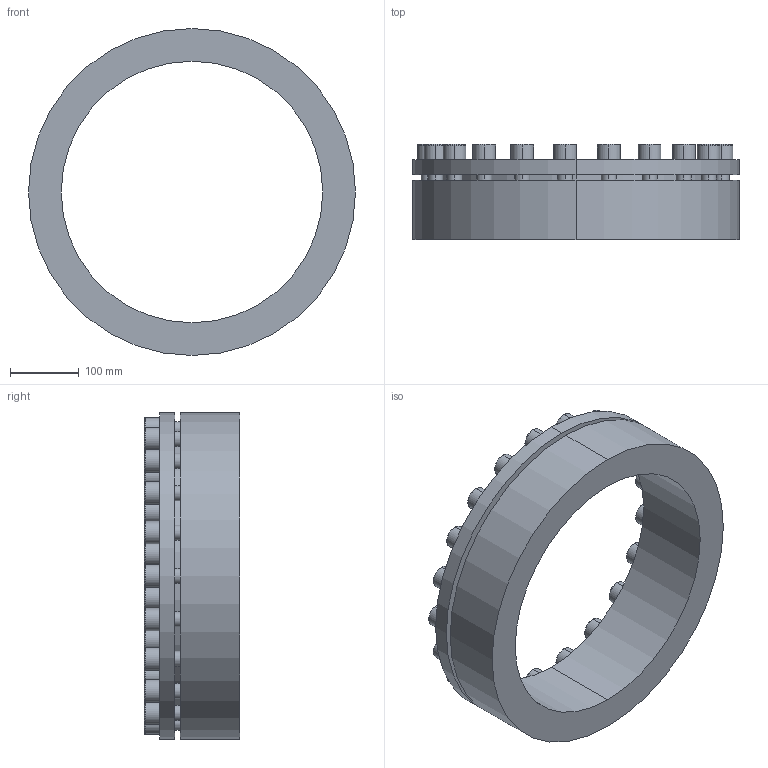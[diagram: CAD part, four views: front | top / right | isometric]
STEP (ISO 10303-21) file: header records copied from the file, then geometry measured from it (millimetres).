
FILE_DESCRIPTION (( 'STEP AP203' ), '1' );
FILE_NAME ('PL-H3 380-475.STEP', '2021-10-23T01:13:05', ( '' ), ( '' ), 'SwSTEP 2.0', 'SolidWorks 2018', '' );
FILE_SCHEMA (( 'CONFIG_CONTROL_DESIGN' ));
Length unit declared in the file: millimetre
Products named in the file (1): PL-H3 380-475
Bounding box: 475 x 138 x 475 mm (x, y, z)
Volume: 7383480.1 mm3; surface area: 597801.8 mm2
Topology: 1 solids, 1 shells, 306 faces, 738 edges, 478 vertices
Faces by surface type: plane 172, cylinder 92, torus 42
Entity records: 9099 total; most frequent: DIRECTION 1620, CARTESIAN_POINT 1523, ORIENTED_EDGE 1476, EDGE_CURVE 738, AXIS2_PLACEMENT_3D 575, VERTEX_POINT 478, LINE 470, VECTOR 470
